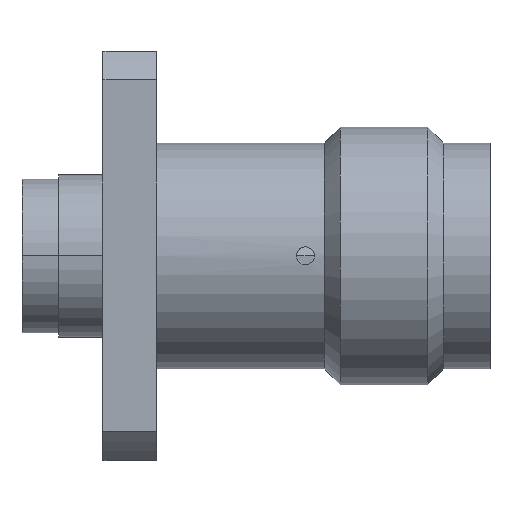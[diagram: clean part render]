
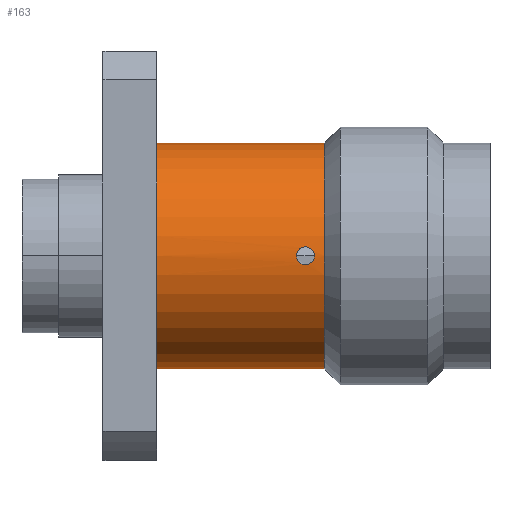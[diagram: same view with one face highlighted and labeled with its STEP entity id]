
A CAD part, top view. The second image highlights one B-rep face of the part: STEP entity #163.
In plain terms, the highlighted cylindrical face has radius 4.82 mm (diameter 9.639 mm), a partial arc.
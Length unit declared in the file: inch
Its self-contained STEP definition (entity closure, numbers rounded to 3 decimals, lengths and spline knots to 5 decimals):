
#72 = ORIENTED_EDGE ( 'NONE', *, *, #1059, .T. ) ;
#106 = EDGE_LOOP ( 'NONE', ( #72, #717 ) ) ;
#146 = VERTEX_POINT ( 'NONE', #2578 ) ;
#150 = CARTESIAN_POINT ( 'NONE',  ( 0.325, 0., 0.18975 ) ) ;
#157 = CARTESIAN_POINT ( 'NONE',  ( 0.355, 0., 0.18975 ) ) ;
#163 = ADVANCED_FACE ( 'NONE', ( #1204, #1940 ), #3282, .T. ) ;
#200 = CARTESIAN_POINT ( 'NONE',  ( 0.372, -0.18975, 0. ) ) ;
#247 = CARTESIAN_POINT ( 'NONE',  ( 0.33603, 0.015, 0.18916 ) ) ;
#348 = LINE ( 'NONE', #2276, #3013 ) ;
#361 = CARTESIAN_POINT ( 'NONE',  ( 0.372, 0.18975, 0. ) ) ;
#439 = VERTEX_POINT ( 'NONE', #361 ) ;
#466 = ORIENTED_EDGE ( 'NONE', *, *, #2686, .F. ) ;
#518 = DIRECTION ( 'NONE',  ( 0., -1., 0. ) ) ;
#646 = EDGE_CURVE ( 'NONE', #2135, #439, #936, .T. ) ;
#667 = CARTESIAN_POINT ( 'NONE',  ( 0.33609, -0.015, 0.18916 ) ) ;
#717 = ORIENTED_EDGE ( 'NONE', *, *, #1710, .T. ) ;
#720 = EDGE_CURVE ( 'NONE', #3108, #146, #849, .T. ) ;
#735 = CARTESIAN_POINT ( 'NONE',  ( 0.372, 0., 0. ) ) ;
#813 = CARTESIAN_POINT ( 'NONE',  ( 0.09, 0., 0. ) ) ;
#849 = CIRCLE ( 'NONE', #992, 0.18975 ) ;
#919 = CARTESIAN_POINT ( 'NONE',  ( 0.355, 0., 0.18975 ) ) ;
#936 = CIRCLE ( 'NONE', #2672, 0.18975 ) ;
#992 = AXIS2_PLACEMENT_3D ( 'NONE', #813, #1837, #2351 ) ;
#1010 = CARTESIAN_POINT ( 'NONE',  ( 0.35337, 0.00785, 0.18961 ) ) ;
#1059 = EDGE_CURVE ( 'NONE', #3259, #1525, #1998, .T. ) ;
#1152 = EDGE_LOOP ( 'NONE', ( #1425, #2190, #3328, #466 ) ) ;
#1175 = CARTESIAN_POINT ( 'NONE',  ( 0.35337, -0.00784, 0.18961 ) ) ;
#1202 = CARTESIAN_POINT ( 'NONE',  ( 0.325, -0.00392, 0.18975 ) ) ;
#1204 = FACE_BOUND ( 'NONE', #106, .T. ) ;
#1242 = DIRECTION ( 'NONE',  ( 0., -1., 0. ) ) ;
#1289 = AXIS2_PLACEMENT_3D ( 'NONE', #3125, #1468, #518 ) ;
#1377 = LINE ( 'NONE', #2724, #2890 ) ;
#1392 = CARTESIAN_POINT ( 'NONE',  ( 0.34784, -0.01337, 0.1893 ) ) ;
#1423 = CARTESIAN_POINT ( 'NONE',  ( 0.34392, -0.015, 0.18916 ) ) ;
#1425 = ORIENTED_EDGE ( 'NONE', *, *, #646, .T. ) ;
#1461 = CARTESIAN_POINT ( 'NONE',  ( 0.325, 0., 0.18975 ) ) ;
#1468 = DIRECTION ( 'NONE',  ( -1., 0., 0. ) ) ;
#1525 = VERTEX_POINT ( 'NONE', #1461 ) ;
#1535 = CARTESIAN_POINT ( 'NONE',  ( 0.325, 0.00392, 0.18975 ) ) ;
#1561 = EDGE_CURVE ( 'NONE', #439, #146, #348, .T. ) ;
#1621 = DIRECTION ( 'NONE',  ( -1., 0., 0. ) ) ;
#1661 = CARTESIAN_POINT ( 'NONE',  ( 0.32659, -0.00781, 0.18961 ) ) ;
#1710 = EDGE_CURVE ( 'NONE', #1525, #3259, #2889, .T. ) ;
#1773 = CARTESIAN_POINT ( 'NONE',  ( 0.32662, 0.00783, 0.18961 ) ) ;
#1837 = DIRECTION ( 'NONE',  ( -1., 0., 0. ) ) ;
#1940 = FACE_OUTER_BOUND ( 'NONE', #1152, .T. ) ;
#1998 = B_SPLINE_CURVE_WITH_KNOTS ( 'NONE', 3,
 ( #919, #2734, #1175, #1392, #1423, #667, #3253, #1661, #1202, #150 ),
 .UNSPECIFIED., .F., .F.,
 ( 4, 2, 2, 2, 4 ),
 ( 0., 0.0003, 0.0006, 0.00089, 0.00119 ),
 .UNSPECIFIED. ) ;
#2025 = CARTESIAN_POINT ( 'NONE',  ( 0.34783, 0.01338, 0.1893 ) ) ;
#2062 = CARTESIAN_POINT ( 'NONE',  ( 0.355, 0., 0.18975 ) ) ;
#2135 = VERTEX_POINT ( 'NONE', #200 ) ;
#2190 = ORIENTED_EDGE ( 'NONE', *, *, #1561, .T. ) ;
#2276 = CARTESIAN_POINT ( 'NONE',  ( 0., 0.18975, 0. ) ) ;
#2351 = DIRECTION ( 'NONE',  ( 0., -1., 0. ) ) ;
#2578 = CARTESIAN_POINT ( 'NONE',  ( 0.09, 0.18975, 0. ) ) ;
#2672 = AXIS2_PLACEMENT_3D ( 'NONE', #735, #2856, #1242 ) ;
#2686 = EDGE_CURVE ( 'NONE', #2135, #3108, #1377, .T. ) ;
#2724 = CARTESIAN_POINT ( 'NONE',  ( 0., -0.18975, 0. ) ) ;
#2734 = CARTESIAN_POINT ( 'NONE',  ( 0.355, -0.00397, 0.18975 ) ) ;
#2855 = CARTESIAN_POINT ( 'NONE',  ( 0.355, 0.00397, 0.18975 ) ) ;
#2856 = DIRECTION ( 'NONE',  ( -1., 0., 0. ) ) ;
#2889 = B_SPLINE_CURVE_WITH_KNOTS ( 'NONE', 3,
 ( #3392, #1535, #1773, #3403, #247, #3364, #2025, #1010, #2855, #2062 ),
 .UNSPECIFIED., .F., .F.,
 ( 4, 2, 2, 2, 4 ),
 ( 0.00119, 0.00149, 0.00179, 0.00209, 0.00238 ),
 .UNSPECIFIED. ) ;
#2890 = VECTOR ( 'NONE', #1621, 39.37008 ) ;
#3013 = VECTOR ( 'NONE', #3316, 39.37008 ) ;
#3108 = VERTEX_POINT ( 'NONE', #3135 ) ;
#3125 = CARTESIAN_POINT ( 'NONE',  ( 0., 0., 0. ) ) ;
#3135 = CARTESIAN_POINT ( 'NONE',  ( 0.09, -0.18975, 0. ) ) ;
#3253 = CARTESIAN_POINT ( 'NONE',  ( 0.3322, -0.01341, 0.1893 ) ) ;
#3259 = VERTEX_POINT ( 'NONE', #157 ) ;
#3282 = CYLINDRICAL_SURFACE ( 'NONE', #1289, 0.18975 ) ;
#3316 = DIRECTION ( 'NONE',  ( -1., 0., 0. ) ) ;
#3328 = ORIENTED_EDGE ( 'NONE', *, *, #720, .F. ) ;
#3364 = CARTESIAN_POINT ( 'NONE',  ( 0.34395, 0.015, 0.18916 ) ) ;
#3392 = CARTESIAN_POINT ( 'NONE',  ( 0.325, 0., 0.18975 ) ) ;
#3403 = CARTESIAN_POINT ( 'NONE',  ( 0.33215, 0.01337, 0.1893 ) ) ;
